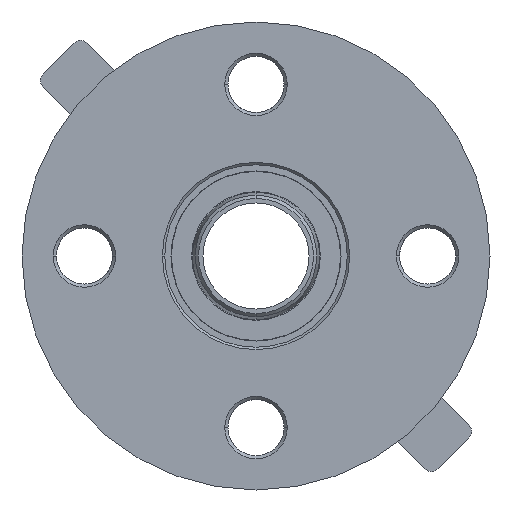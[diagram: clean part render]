
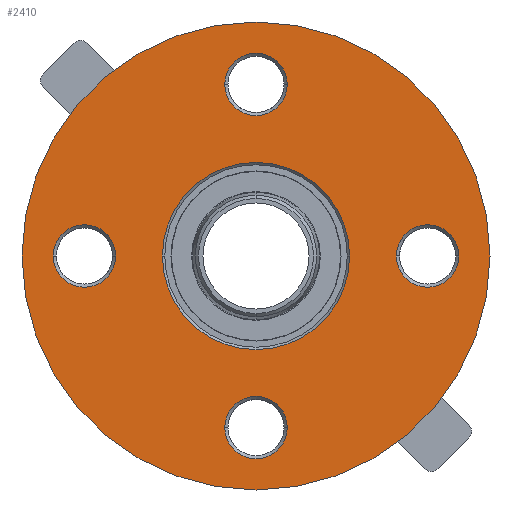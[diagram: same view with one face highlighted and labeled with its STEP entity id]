
A CAD part, left-side view. The second image highlights one B-rep face of the part: STEP entity #2410.
In plain terms, the highlighted planar face has unit normal (-1, 0, 0).
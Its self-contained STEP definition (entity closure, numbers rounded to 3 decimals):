
#2 = EDGE_LOOP ( 'NONE', ( #1110, #1109 ) ) ;
#146 = VERTEX_POINT ( 'NONE', #1315 ) ;
#147 = VERTEX_POINT ( 'NONE', #1316 ) ;
#151 = VERTEX_POINT ( 'NONE', #1320 ) ;
#158 = VERTEX_POINT ( 'NONE', #1327 ) ;
#244 = CARTESIAN_POINT ( 'NONE',  ( -16.361, 63.868, 11.171 ) ) ;
#270 = CARTESIAN_POINT ( 'NONE',  ( -16.361, -1.132, 11.171 ) ) ;
#271 = DIRECTION ( 'NONE',  ( 1., 0., 0. ) ) ;
#272 = DIRECTION ( 'NONE',  ( 0., -1., 0. ) ) ;
#283 = CIRCLE ( 'NONE', #297, 10. ) ;
#286 = CIRCLE ( 'NONE', #301, 10. ) ;
#287 = CIRCLE ( 'NONE', #326, 75. ) ;
#290 = AXIS2_PLACEMENT_3D ( 'NONE', #2623, #2624, #2625 ) ;
#295 = CIRCLE ( 'NONE', #303, 10. ) ;
#297 = AXIS2_PLACEMENT_3D ( 'NONE', #2626, #2627, #2628 ) ;
#299 = CIRCLE ( 'NONE', #315, 30. ) ;
#301 = AXIS2_PLACEMENT_3D ( 'NONE', #2629, #2630, #2631 ) ;
#303 = AXIS2_PLACEMENT_3D ( 'NONE', #2632, #2633, #2634 ) ;
#315 = AXIS2_PLACEMENT_3D ( 'NONE', #2635, #2636, #2637 ) ;
#326 = AXIS2_PLACEMENT_3D ( 'NONE', #270, #271, #272 ) ;
#331 = CIRCLE ( 'NONE', #290, 10. ) ;
#357 = EDGE_LOOP ( 'NONE', ( #1124, #1121 ) ) ;
#359 = EDGE_LOOP ( 'NONE', ( #1119, #1116 ) ) ;
#363 = EDGE_LOOP ( 'NONE', ( #1129, #1128 ) ) ;
#370 = VERTEX_POINT ( 'NONE', #1338 ) ;
#373 = VERTEX_POINT ( 'NONE', #1341 ) ;
#374 = VERTEX_POINT ( 'NONE', #1342 ) ;
#378 = VERTEX_POINT ( 'NONE', #1346 ) ;
#379 = VERTEX_POINT ( 'NONE', #1347 ) ;
#524 = AXIS2_PLACEMENT_3D ( 'NONE', #2720, #2722, #2723 ) ;
#546 = CIRCLE ( 'NONE', #549, 10. ) ;
#549 = AXIS2_PLACEMENT_3D ( 'NONE', #2814, #2815, #2816 ) ;
#550 = CIRCLE ( 'NONE', #554, 10. ) ;
#554 = AXIS2_PLACEMENT_3D ( 'NONE', #2823, #2824, #2825 ) ;
#556 = CIRCLE ( 'NONE', #560, 10. ) ;
#560 = AXIS2_PLACEMENT_3D ( 'NONE', #2835, #2836, #2837 ) ;
#562 = CIRCLE ( 'NONE', #566, 10. ) ;
#566 = AXIS2_PLACEMENT_3D ( 'NONE', #2846, #2847, #2848 ) ;
#568 = CIRCLE ( 'NONE', #572, 30. ) ;
#572 = AXIS2_PLACEMENT_3D ( 'NONE', #2860, #2861, #2862 ) ;
#604 = CIRCLE ( 'NONE', #607, 75. ) ;
#607 = AXIS2_PLACEMENT_3D ( 'NONE', #2933, #2934, #2935 ) ;
#758 = VERTEX_POINT ( 'NONE', #244 ) ;
#1105 = ORIENTED_EDGE ( 'NONE', *, *, #2469, .F. ) ;
#1106 = ORIENTED_EDGE ( 'NONE', *, *, #1759, .F. ) ;
#1109 = ORIENTED_EDGE ( 'NONE', *, *, #1769, .T. ) ;
#1110 = ORIENTED_EDGE ( 'NONE', *, *, #2445, .T. ) ;
#1111 = ORIENTED_EDGE ( 'NONE', *, *, #1768, .T. ) ;
#1115 = ORIENTED_EDGE ( 'NONE', *, *, #2430, .T. ) ;
#1116 = ORIENTED_EDGE ( 'NONE', *, *, #1767, .T. ) ;
#1119 = ORIENTED_EDGE ( 'NONE', *, *, #2433, .T. ) ;
#1121 = ORIENTED_EDGE ( 'NONE', *, *, #1766, .T. ) ;
#1124 = ORIENTED_EDGE ( 'NONE', *, *, #2437, .T. ) ;
#1128 = ORIENTED_EDGE ( 'NONE', *, *, #1765, .T. ) ;
#1129 = ORIENTED_EDGE ( 'NONE', *, *, #2441, .T. ) ;
#1315 = CARTESIAN_POINT ( 'NONE',  ( -16.361, -46.132, 11.171 ) ) ;
#1316 = CARTESIAN_POINT ( 'NONE',  ( -16.361, -66.132, 11.171 ) ) ;
#1320 = CARTESIAN_POINT ( 'NONE',  ( -16.361, 28.868, 11.171 ) ) ;
#1327 = CARTESIAN_POINT ( 'NONE',  ( -16.361, -31.132, 11.171 ) ) ;
#1338 = CARTESIAN_POINT ( 'NONE',  ( -16.361, 43.868, 11.171 ) ) ;
#1341 = CARTESIAN_POINT ( 'NONE',  ( -16.361, 8.868, -43.829 ) ) ;
#1342 = CARTESIAN_POINT ( 'NONE',  ( -16.361, -11.132, -43.829 ) ) ;
#1346 = CARTESIAN_POINT ( 'NONE',  ( -16.361, 8.868, 66.171 ) ) ;
#1347 = CARTESIAN_POINT ( 'NONE',  ( -16.361, -11.132, 66.171 ) ) ;
#1489 = EDGE_LOOP ( 'NONE', ( #1115, #1111 ) ) ;
#1491 = EDGE_LOOP ( 'NONE', ( #1106, #1105 ) ) ;
#1759 = EDGE_CURVE ( 'NONE', #2672, #2671, #287, .T. ) ;
#1765 = EDGE_CURVE ( 'NONE', #147, #146, #331, .T. ) ;
#1766 = EDGE_CURVE ( 'NONE', #379, #378, #283, .T. ) ;
#1767 = EDGE_CURVE ( 'NONE', #374, #373, #286, .T. ) ;
#1768 = EDGE_CURVE ( 'NONE', #370, #758, #295, .T. ) ;
#1769 = EDGE_CURVE ( 'NONE', #158, #151, #299, .T. ) ;
#2410 = ADVANCED_FACE ( 'NONE', ( #2713, #2715, #2717, #2719, #2712, #2714 ), #2716, .F. ) ;
#2430 = EDGE_CURVE ( 'NONE', #758, #370, #546, .T. ) ;
#2433 = EDGE_CURVE ( 'NONE', #373, #374, #550, .T. ) ;
#2437 = EDGE_CURVE ( 'NONE', #378, #379, #556, .T. ) ;
#2441 = EDGE_CURVE ( 'NONE', #146, #147, #562, .T. ) ;
#2445 = EDGE_CURVE ( 'NONE', #151, #158, #568, .T. ) ;
#2469 = EDGE_CURVE ( 'NONE', #2671, #2672, #604, .T. ) ;
#2623 = CARTESIAN_POINT ( 'NONE',  ( -16.361, -56.132, 11.171 ) ) ;
#2624 = DIRECTION ( 'NONE',  ( 1., 0., 0. ) ) ;
#2625 = DIRECTION ( 'NONE',  ( 0., -1., 0. ) ) ;
#2626 = CARTESIAN_POINT ( 'NONE',  ( -16.361, -1.132, 66.171 ) ) ;
#2627 = DIRECTION ( 'NONE',  ( 1., 0., 0. ) ) ;
#2628 = DIRECTION ( 'NONE',  ( 0., -1., 0. ) ) ;
#2629 = CARTESIAN_POINT ( 'NONE',  ( -16.361, -1.132, -43.829 ) ) ;
#2630 = DIRECTION ( 'NONE',  ( 1., 0., 0. ) ) ;
#2631 = DIRECTION ( 'NONE',  ( 0., -1., 0. ) ) ;
#2632 = CARTESIAN_POINT ( 'NONE',  ( -16.361, 53.868, 11.171 ) ) ;
#2633 = DIRECTION ( 'NONE',  ( 1., 0., 0. ) ) ;
#2634 = DIRECTION ( 'NONE',  ( 0., -1., 0. ) ) ;
#2635 = CARTESIAN_POINT ( 'NONE',  ( -16.361, -1.132, 11.171 ) ) ;
#2636 = DIRECTION ( 'NONE',  ( 1., 0., 0. ) ) ;
#2637 = DIRECTION ( 'NONE',  ( 0., -1., 0. ) ) ;
#2671 = VERTEX_POINT ( 'NONE', #2950 ) ;
#2672 = VERTEX_POINT ( 'NONE', #2955 ) ;
#2712 = FACE_BOUND ( 'NONE', #2, .T. ) ;
#2713 = FACE_BOUND ( 'NONE', #363, .T. ) ;
#2714 = FACE_OUTER_BOUND ( 'NONE', #1491, .T. ) ;
#2715 = FACE_BOUND ( 'NONE', #357, .T. ) ;
#2716 = PLANE ( 'NONE',  #524 ) ;
#2717 = FACE_BOUND ( 'NONE', #359, .T. ) ;
#2719 = FACE_BOUND ( 'NONE', #1489, .T. ) ;
#2720 = CARTESIAN_POINT ( 'NONE',  ( -16.361, -1.132, 11.171 ) ) ;
#2722 = DIRECTION ( 'NONE',  ( 1., 0., 0. ) ) ;
#2723 = DIRECTION ( 'NONE',  ( 0., -1., 0. ) ) ;
#2814 = CARTESIAN_POINT ( 'NONE',  ( -16.361, 53.868, 11.171 ) ) ;
#2815 = DIRECTION ( 'NONE',  ( 1., 0., 0. ) ) ;
#2816 = DIRECTION ( 'NONE',  ( 0., -1., 0. ) ) ;
#2823 = CARTESIAN_POINT ( 'NONE',  ( -16.361, -1.132, -43.829 ) ) ;
#2824 = DIRECTION ( 'NONE',  ( 1., 0., 0. ) ) ;
#2825 = DIRECTION ( 'NONE',  ( 0., -1., 0. ) ) ;
#2835 = CARTESIAN_POINT ( 'NONE',  ( -16.361, -1.132, 66.171 ) ) ;
#2836 = DIRECTION ( 'NONE',  ( 1., 0., 0. ) ) ;
#2837 = DIRECTION ( 'NONE',  ( 0., -1., 0. ) ) ;
#2846 = CARTESIAN_POINT ( 'NONE',  ( -16.361, -56.132, 11.171 ) ) ;
#2847 = DIRECTION ( 'NONE',  ( 1., 0., 0. ) ) ;
#2848 = DIRECTION ( 'NONE',  ( 0., -1., 0. ) ) ;
#2860 = CARTESIAN_POINT ( 'NONE',  ( -16.361, -1.132, 11.171 ) ) ;
#2861 = DIRECTION ( 'NONE',  ( 1., 0., 0. ) ) ;
#2862 = DIRECTION ( 'NONE',  ( 0., -1., 0. ) ) ;
#2933 = CARTESIAN_POINT ( 'NONE',  ( -16.361, -1.132, 11.171 ) ) ;
#2934 = DIRECTION ( 'NONE',  ( 1., 0., 0. ) ) ;
#2935 = DIRECTION ( 'NONE',  ( 0., -1., 0. ) ) ;
#2950 = CARTESIAN_POINT ( 'NONE',  ( -16.361, -76.132, 11.171 ) ) ;
#2955 = CARTESIAN_POINT ( 'NONE',  ( -16.361, 73.868, 11.171 ) ) ;
